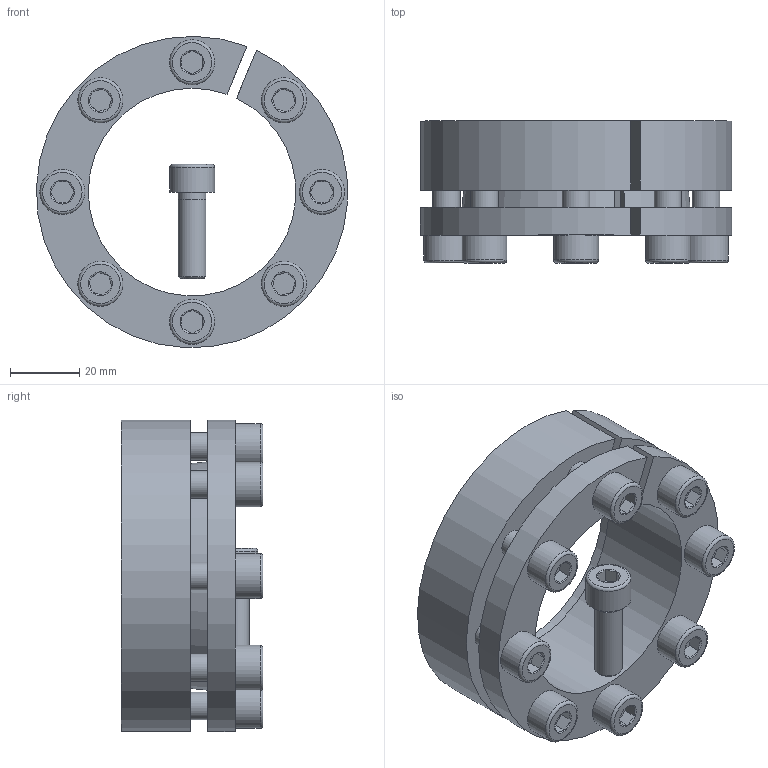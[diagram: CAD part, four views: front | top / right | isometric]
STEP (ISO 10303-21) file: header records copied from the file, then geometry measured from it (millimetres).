
FILE_DESCRIPTION( ( 'Unknown' ), '1' );
FILE_NAME( 'C:/Dokumente und Einstellungen/Sven/Desktop/homepage/cad - homepage/KBS13/KBS 13 - 60 x 90.stp', 'Unknown', ( 'Unknown' ), ( 'Unknown' ), 'XStep 1.0', 'Unknown', ' ' );
FILE_SCHEMA( ( 'automotive_design' ) );
Length unit declared in the file: millimetre
Products named in the file (3): Assem1; KBS 13 - 60 x 90; ISO EN DIN 4762 M8x25
Bounding box: 89.89 x 41 x 89.95 mm (x, y, z)
Volume: 197151.1 mm3; surface area: 77342.7 mm2
Topology: 11 solids, 11 shells, 281 faces, 573 edges, 350 vertices
Faces by surface type: plane 122, cylinder 74, cone 67, torus 18
Full cylindrical faces by diameter (mm): 7 x9, 8 x50, 13 x9
Entity records: 1774 total; most frequent: CARTESIAN_POINT 293, DIRECTION 272, ORIENTED_EDGE 194, AXIS2_PLACEMENT_3D 122, EDGE_LOOP 112, EDGE_CURVE 97, FACE_OUTER_BOUND 75, VERTEX_POINT 75
